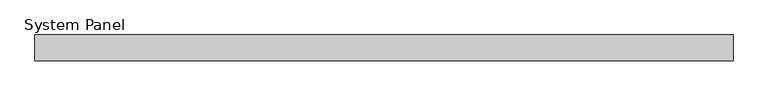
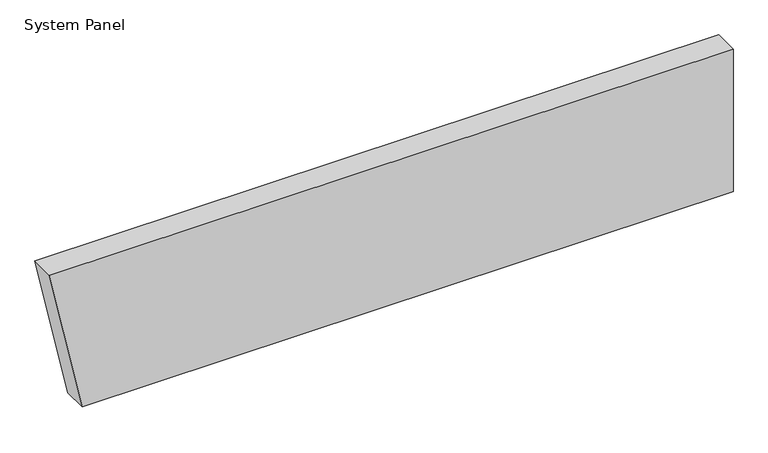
"""IFC4 building model written with IfcOpenShell, lengths in millimetres: plate geometry, System Panel : Equitilt 200mm Horizontal - Plain RHEA - EPS-FR."""

from ifc_helpers import new_model, si_unit, frame, origin, place, context, project, spatial, polyline, outline, extrude, source, transform, mapped, element, save


def system_panel_5ff77a8b(model_context):
    return source(origin(), model_context, "Body", "SweptSolid", [
        extrude(outline(polyline([(0.0, -2459.5641691), (0.0, 2720.4358309), (1200.0, 2720.4358309), (1200.0, -2720.4358309), (0.0, -2459.5641691)])), frame((0.0, -200.0, 0.0), z_axis=(0.0, 1.0, 0.0), x_axis=(0.0, 0.0, 1.0)), (0.0, 0.0, 1.0), 200.0),
    ])


if __name__ == "__main__":
    model = new_model("IFC4")
    model_context = context("Model", 3, world=origin())
    ifc_project = project(units=[si_unit("LENGTHUNIT", "METRE", prefix="MILLI")], contexts=[model_context])
    site = spatial("IfcSite", under=ifc_project)
    building = spatial("IfcBuilding", under=site)
    placement = place(None, origin())
    system_panel_shape = system_panel_5ff77a8b(model_context)
    element("IfcPlate", 1, ObjectType="System Panel : Equitilt 200mm Horizontal - Plain RHEA - EPS-FR", at=placement, inside=building, context=model_context, shape_type="MappedRepresentation", body=[
        mapped(system_panel_shape, transform((0.0, 0.0, 0.0), x_axis=(1.0, 0.0, 0.0), y_axis=(0.0, 1.0, 0.0), z_axis=(0.0, 0.0, 1.0))),
    ])
    save(model, "model.ifc")
